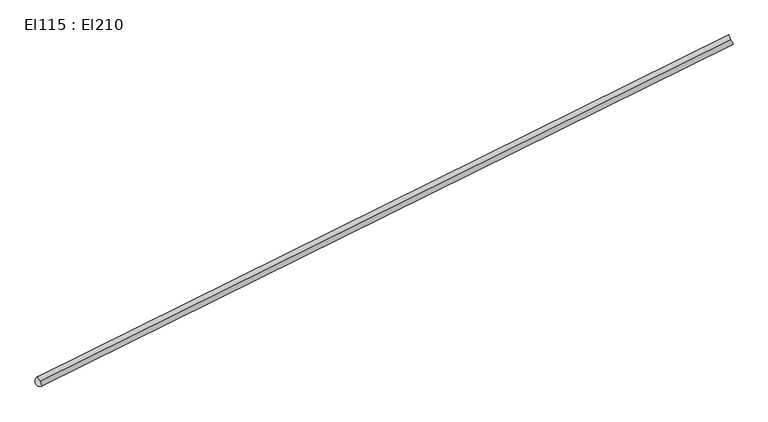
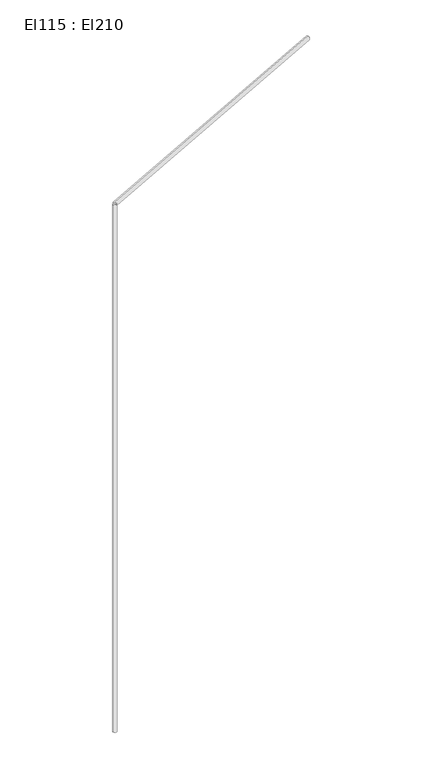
"""IFC4 building model written with IfcOpenShell, lengths in millimetres: cable carrier segment geometry, El115 : El210."""

from ifc_helpers import new_model, si_unit, point, frame, frame_2d, origin, place, context, project, spatial, circle_curve, trimmed, segment, composite_curve, outline, extrude, source, transform, mapped, element, save


def el115_el210_392fa1a4(model_context):
    return source(origin(), model_context, "Body", "SweptSolid", [
        extrude(outline(composite_curve([segment(trimmed(circle_curve(frame_2d((114.4756511, 15937.8791745)), 9.5), [point((104.9756511, 15937.8791745))], [point((123.9756511, 15937.8791745))], False, "CARTESIAN"), True, "CONTINUOUS"), segment(trimmed(circle_curve(frame_2d((114.4756511, 15937.8791745)), 9.5), [point((123.9756511, 15937.8791745))], [point((104.9756511, 15937.8791745))], False, "CARTESIAN"), True, "CONTINUOUS")], self_intersect=False)), frame((0.0, 0.0, 1830.0), z_axis=(0.0, 0.0, 1.0), x_axis=(1.0, 0.0, 0.0)), (0.0, 0.0, 1.0), 2620.0),
        extrude(outline(composite_curve([segment(trimmed(circle_curve(frame_2d((0.0, -9.5)), 9.5), [point((0.0, -19.0))], [point((0.0, 0.0))], False, "CARTESIAN"), True, "CONTINUOUS"), segment(trimmed(circle_curve(frame_2d((0.0, -9.5)), 9.5), [point((0.0, 0.0))], [point((0.0, -19.0))], False, "CARTESIAN"), True, "CONTINUOUS")], self_intersect=False)), frame((114.472936, 15937.8788045, 4459.5), z_axis=(0.8963016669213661, 0.44344483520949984, 0.0), x_axis=(-0.44344483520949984, 0.8963016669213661, 0.0)), (0.0, 0.0, 1.0), 1415.85),
    ])


if __name__ == "__main__":
    model = new_model("IFC4")
    model_context = context("Model", 3, world=origin())
    ifc_project = project(units=[si_unit("LENGTHUNIT", "METRE", prefix="MILLI")], contexts=[model_context])
    site = spatial("IfcSite", under=ifc_project)
    building = spatial("IfcBuilding", under=site)
    placement = place(None, origin())
    el115_el210_shape = el115_el210_392fa1a4(model_context)
    element("IfcCableCarrierSegment", 1, ObjectType="El115 : El210", at=placement, inside=building, context=model_context, shape_type="MappedRepresentation", body=[
        mapped(el115_el210_shape, transform((0.0, 0.0, 0.0), x_axis=(1.0, 0.0, 0.0), y_axis=(0.0, 1.0, 0.0), z_axis=(0.0, 0.0, 1.0))),
    ])
    save(model, "model.ifc")
